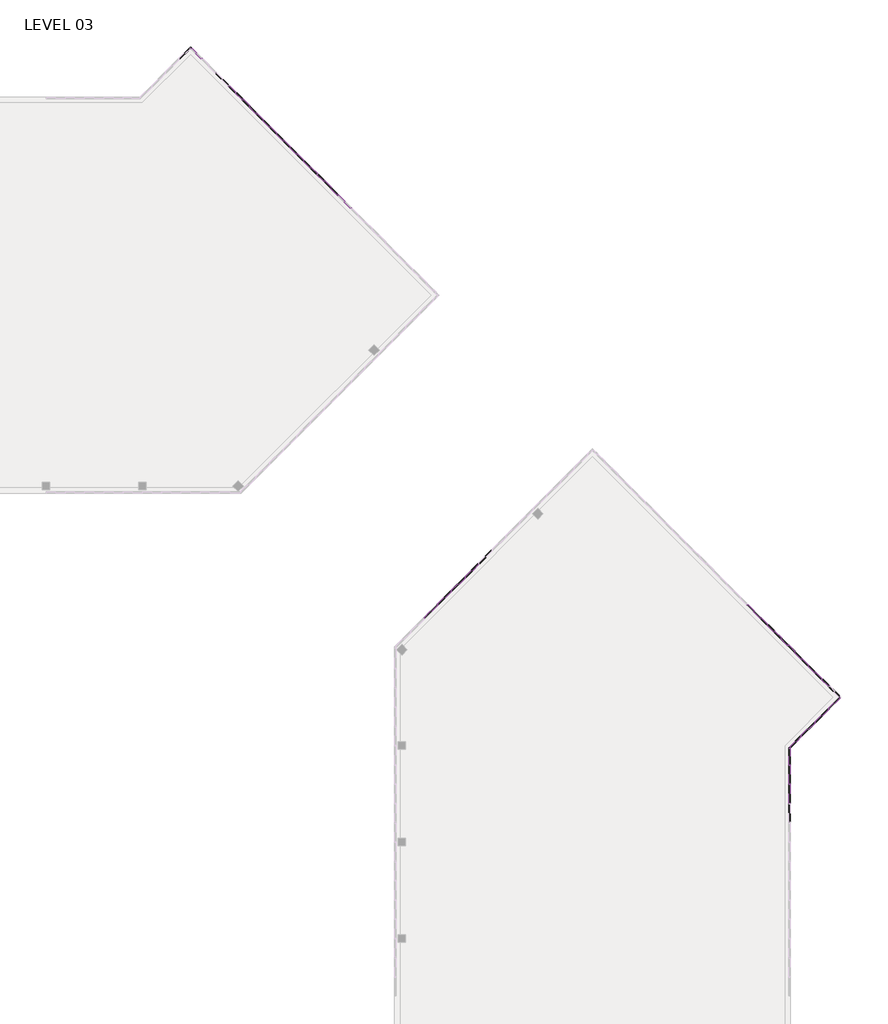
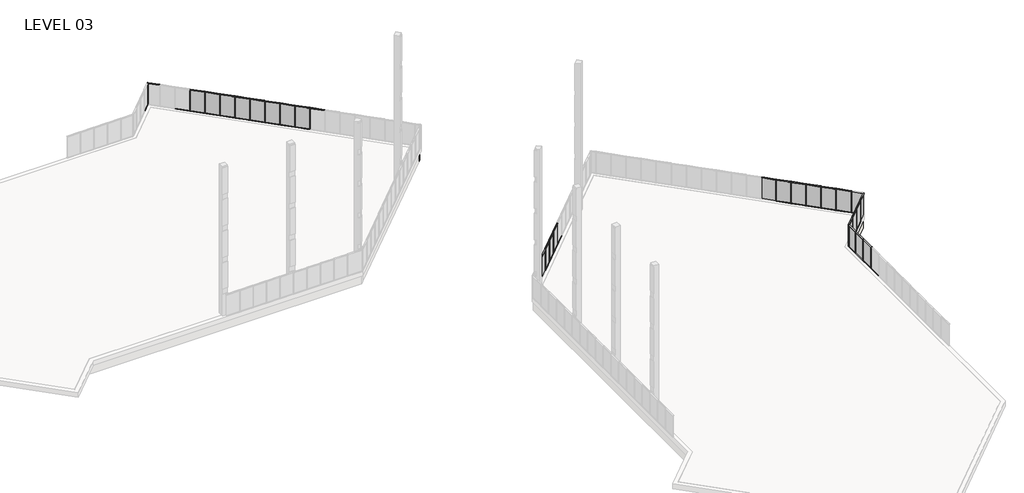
# One storey, part 16 of 18: 82 members, 26 plates, 2 walls.
"""IFC4 building model written with IfcOpenShell, lengths in millimetres."""

from ifc_helpers import new_model, si_unit, origin, place, context, project, spatial, faceted_brep, transform, mapped, element, save
from components import member_5247f267, member_e44af9ab, member_800970d4, member_c23f844a, member_ed9c17d6, member_53409b32, member_0b71a88d, member_45eb7f2e, member_43bac76b, plate_67294edd, plate_50b9cd61, plate_048e4634, plate_dca6a18a, plate_9c66726c, plate_e0fd5134, plate_15429445, plate_0d1907f3, plate_903242d9

model = new_model("IFC4")

# Units and contexts
model_context = context("Model", 3, world=origin())
ifc_project = project(units=[si_unit("LENGTHUNIT", "METRE", prefix="MILLI")], contexts=[model_context])

# Site, building, storey
site = spatial("IfcSite", under=ifc_project)
building = spatial("IfcBuilding", under=site)
storey = spatial("IfcBuildingStorey", under=building, Name="LEVEL 03", Elevation=8280.4)

# Members
placement = place(None, origin())
member_shape = member_5247f267(model_context)
element("IfcMember", 1, ObjectType="Rectangular Mullion : 2\" x 4.5\" rectangular", at=placement, inside=storey, context=model_context, shape_type="MappedRepresentation", body=[
    mapped(member_shape, transform((56684.0325556, 112485.575885, 8280.4), x_axis=(0.0, 0.0, -1.0), y_axis=(0.7071067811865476, 0.7071067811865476, 0.0), z_axis=(0.7071067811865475, -0.7071067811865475, 0.0))),
])
element("IfcMember", 2, ObjectType="Rectangular Mullion : 2\" x 4.5\" rectangular", at=placement, inside=storey, context=model_context, shape_type="MappedRepresentation", body=[
    mapped(member_shape, transform((50242.2689164, 118927.3395242, 8280.4), x_axis=(0.0, 0.0, -1.0), y_axis=(0.7071067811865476, 0.7071067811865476, 0.0), z_axis=(0.7071067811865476, -0.7071067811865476, 0.0))),
])
element("IfcMember", 3, ObjectType="Rectangular Mullion : 2\" x 4.5\" rectangular", at=placement, inside=storey, context=model_context, shape_type="MappedRepresentation", body=[
    mapped(member_shape, transform((49164.6381819, 120004.9702587, 8280.4), x_axis=(0.0, 0.0, -1.0), y_axis=(0.7071067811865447, 0.7071067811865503, 0.0), z_axis=(0.7071067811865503, -0.7071067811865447, 0.0))),
])
element("IfcMember", 4, ObjectType="Rectangular Mullion : 2\" x 4.5\" rectangular", at=placement, inside=storey, context=model_context, shape_type="MappedRepresentation", body=[
    mapped(member_shape, transform((48087.0074473, 121082.6009932, 8280.4), x_axis=(0.0, 0.0, -1.0), y_axis=(0.7071067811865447, 0.7071067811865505, 0.0), z_axis=(0.7071067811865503, -0.7071067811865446, 0.0))),
])
element("IfcMember", 5, ObjectType="Rectangular Mullion : 2\" x 4.5\" rectangular", at=placement, inside=storey, context=model_context, shape_type="MappedRepresentation", body=[
    mapped(member_shape, transform((56719.9535801, 112449.6548605, 10871.2), x_axis=(0.0, 0.0, 1.0), y_axis=(0.7071067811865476, 0.7071067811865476, 0.0), z_axis=(-0.7071067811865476, 0.7071067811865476, 0.0))),
])
element("IfcMember", 6, ObjectType="Rectangular Mullion : 2\" x 4.5\" rectangular", at=placement, inside=storey, context=model_context, shape_type="MappedRepresentation", body=[
    mapped(member_shape, transform((55642.3585801, 113527.2498605, 10871.2), x_axis=(0.0, 0.0, 1.0), y_axis=(0.7071067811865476, 0.7071067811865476, 0.0), z_axis=(-0.7071067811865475, 0.7071067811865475, 0.0))),
])
element("IfcMember", 7, ObjectType="Rectangular Mullion : 2\" x 4.5\" rectangular", at=placement, inside=storey, context=model_context, shape_type="MappedRepresentation", body=[
    mapped(member_shape, transform((49200.5592064, 119969.0492342, 10871.2), x_axis=(0.0, 0.0, 1.0), y_axis=(0.7071067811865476, 0.7071067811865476, 0.0), z_axis=(-0.7071067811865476, 0.7071067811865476, 0.0))),
])
element("IfcMember", 8, ObjectType="Rectangular Mullion : 2\" x 4.5\" rectangular", at=placement, inside=storey, context=model_context, shape_type="MappedRepresentation", body=[
    mapped(member_shape, transform((48122.9284718, 121046.6799687, 10871.2), x_axis=(0.0, 0.0, 1.0), y_axis=(0.7071067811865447, 0.7071067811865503, 0.0), z_axis=(-0.7071067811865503, 0.7071067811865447, 0.0))),
])
member_2_shape = member_e44af9ab(model_context)
element("IfcMember", 9, ObjectType="Rectangular Mullion : 2\" x 4.5\" rectangular", at=placement, inside=storey, context=model_context, shape_type="MappedRepresentation", body=[
    mapped(member_2_shape, transform((56701.9930678, 112467.6153727, 8280.4), x_axis=(-0.7071067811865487, 0.7071067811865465, 0.0), y_axis=(0.7071067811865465, 0.7071067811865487, 0.0), z_axis=(0.0, 0.0, -1.0))),
])
element("IfcMember", 10, ObjectType="Rectangular Mullion : 2\" x 4.5\" rectangular", at=placement, inside=storey, context=model_context, shape_type="MappedRepresentation", body=[
    mapped(member_2_shape, transform((55624.3980678, 113545.2103727, 8280.4), x_axis=(-0.7071067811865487, 0.7071067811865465, 0.0), y_axis=(0.7071067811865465, 0.7071067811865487, 0.0), z_axis=(0.0, 0.0, -1.0))),
])
element("IfcMember", 11, ObjectType="Rectangular Mullion : 2\" x 4.5\" rectangular", at=placement, inside=storey, context=model_context, shape_type="MappedRepresentation", body=[
    mapped(member_2_shape, transform((53475.159658, 115694.4487825, 8280.4), x_axis=(-0.7071067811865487, 0.7071067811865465, 0.0), y_axis=(0.7071067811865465, 0.7071067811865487, 0.0), z_axis=(0.0, 0.0, -1.0))),
])
element("IfcMember", 12, ObjectType="Rectangular Mullion : 2\" x 4.5\" rectangular", at=placement, inside=storey, context=model_context, shape_type="MappedRepresentation", body=[
    mapped(member_2_shape, transform((52403.5162482, 116766.0921923, 8280.4), x_axis=(-0.7071067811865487, 0.7071067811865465, 0.0), y_axis=(0.7071067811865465, 0.7071067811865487, 0.0), z_axis=(0.0, 0.0, -1.0))),
])
element("IfcMember", 13, ObjectType="Rectangular Mullion : 2\" x 4.5\" rectangular", at=placement, inside=storey, context=model_context, shape_type="MappedRepresentation", body=[
    mapped(member_2_shape, transform((51331.8728384, 117837.7356021, 8280.4), x_axis=(-0.7071067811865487, 0.7071067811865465, 0.0), y_axis=(0.7071067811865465, 0.7071067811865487, 0.0), z_axis=(0.0, 0.0, -1.0))),
])
element("IfcMember", 14, ObjectType="Rectangular Mullion : 2\" x 4.5\" rectangular", at=placement, inside=storey, context=model_context, shape_type="MappedRepresentation", body=[
    mapped(member_2_shape, transform((50260.2294286, 118909.3790119, 8280.4), x_axis=(-0.7071067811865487, 0.7071067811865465, 0.0), y_axis=(0.7071067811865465, 0.7071067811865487, 0.0), z_axis=(0.0, 0.0, -1.0))),
])
element("IfcMember", 15, ObjectType="Rectangular Mullion : 2\" x 4.5\" rectangular", at=placement, inside=storey, context=model_context, shape_type="MappedRepresentation", body=[
    mapped(member_2_shape, transform((54549.7788629, 114619.8295776, 8280.4), x_axis=(-0.7071067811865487, 0.7071067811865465, 0.0), y_axis=(0.7071067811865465, 0.7071067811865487, 0.0), z_axis=(0.0, 0.0, -1.0))),
])
element("IfcMember", 16, ObjectType="Rectangular Mullion : 2\" x 4.5\" rectangular", at=placement, inside=storey, context=model_context, shape_type="MappedRepresentation", body=[
    mapped(member_2_shape, transform((49182.5986941, 119987.0097464, 8280.4), x_axis=(-0.7071067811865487, 0.7071067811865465, 0.0), y_axis=(0.7071067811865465, 0.7071067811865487, 0.0), z_axis=(0.0, 0.0, -1.0))),
])
element("IfcMember", 17, ObjectType="Rectangular Mullion : 2\" x 4.5\" rectangular", at=placement, inside=storey, context=model_context, shape_type="MappedRepresentation", body=[
    mapped(member_2_shape, transform((48104.9679596, 121064.640481, 8280.4), x_axis=(-0.7071067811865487, 0.7071067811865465, 0.0), y_axis=(0.7071067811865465, 0.7071067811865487, 0.0), z_axis=(0.0, 0.0, -1.0))),
])
member_3_shape = member_800970d4(model_context)
element("IfcMember", 18, ObjectType="Rectangular Mullion : 2\" x 4.5\" rectangular", at=placement, inside=storey, context=model_context, shape_type="MappedRepresentation", body=[
    mapped(member_3_shape, transform((45065.95, 124103.6584406, 8280.4), x_axis=(-0.7071067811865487, 0.7071067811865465, 0.0), y_axis=(0.7071067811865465, 0.7071067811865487, 0.0), z_axis=(0.0, 0.0, -1.0))),
])
element("IfcMember", 19, ObjectType="Rectangular Mullion : 2\" x 4.5\" rectangular", at=placement, inside=storey, context=model_context, shape_type="MappedRepresentation", body=[
    mapped(member_3_shape, transform((45065.95, 124103.6584406, 10871.2), x_axis=(0.7071067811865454, 0.7071067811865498, 0.0), y_axis=(-0.7071067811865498, 0.7071067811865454, 0.0), z_axis=(0.0, 0.0, 1.0))),
])
member_4_shape = member_c23f844a(model_context)
element("IfcMember", 20, ObjectType="Rectangular Mullion : 2\" x 4.5\" rectangular", at=placement, inside=storey, context=model_context, shape_type="MappedRepresentation", body=[
    mapped(member_4_shape, transform((52421.4767605, 116748.1316801, 10871.2), x_axis=(0.0, 0.0, 1.0), y_axis=(0.7071067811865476, 0.7071067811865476, 0.0), z_axis=(-0.7071067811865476, 0.7071067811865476, 0.0))),
])
element("IfcMember", 21, ObjectType="Rectangular Mullion : 2\" x 4.5\" rectangular", at=placement, inside=storey, context=model_context, shape_type="MappedRepresentation", body=[
    mapped(member_4_shape, transform((51349.8333507, 117819.7750899, 10871.2), x_axis=(0.0, 0.0, 1.0), y_axis=(0.7071067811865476, 0.7071067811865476, 0.0), z_axis=(-0.7071067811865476, 0.7071067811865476, 0.0))),
])
element("IfcMember", 22, ObjectType="Rectangular Mullion : 2\" x 4.5\" rectangular", at=placement, inside=storey, context=model_context, shape_type="MappedRepresentation", body=[
    mapped(member_4_shape, transform((50278.1899409, 118891.4184997, 10871.2), x_axis=(0.0, 0.0, 1.0), y_axis=(0.7071067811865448, 0.7071067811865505, 0.0), z_axis=(-0.7071067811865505, 0.7071067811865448, 0.0))),
])
element("IfcMember", 23, ObjectType="Rectangular Mullion : 2\" x 4.5\" rectangular", at=placement, inside=storey, context=model_context, shape_type="MappedRepresentation", body=[
    mapped(member_4_shape, transform((53457.1991458, 115712.4092948, 8280.4), x_axis=(0.0, 0.0, -1.0), y_axis=(0.7071067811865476, 0.7071067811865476, 0.0), z_axis=(0.7071067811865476, -0.7071067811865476, 0.0))),
])
element("IfcMember", 24, ObjectType="Rectangular Mullion : 2\" x 4.5\" rectangular", at=placement, inside=storey, context=model_context, shape_type="MappedRepresentation", body=[
    mapped(member_4_shape, transform((52385.555736, 116784.0527046, 8280.4), x_axis=(0.0, 0.0, -1.0), y_axis=(0.7071067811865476, 0.7071067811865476, 0.0), z_axis=(0.7071067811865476, -0.7071067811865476, 0.0))),
])
element("IfcMember", 25, ObjectType="Rectangular Mullion : 2\" x 4.5\" rectangular", at=placement, inside=storey, context=model_context, shape_type="MappedRepresentation", body=[
    mapped(member_4_shape, transform((51313.9123262, 117855.6961144, 8280.4), x_axis=(0.0, 0.0, -1.0), y_axis=(0.7071067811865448, 0.7071067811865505, 0.0), z_axis=(0.7071067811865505, -0.7071067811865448, 0.0))),
])
member_5_shape = member_ed9c17d6(model_context)
element("IfcMember", 26, ObjectType="Rectangular Mullion : 2\" x 4.5\" rectangular", at=placement, inside=storey, context=model_context, shape_type="MappedRepresentation", body=[
    mapped(member_5_shape, transform((53493.1201703, 115676.4882703, 10871.2), x_axis=(0.0, 0.0, 1.0), y_axis=(0.7071067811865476, 0.7071067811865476, 0.0), z_axis=(-0.7071067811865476, 0.7071067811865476, 0.0))),
])
element("IfcMember", 27, ObjectType="Rectangular Mullion : 2\" x 4.5\" rectangular", at=placement, inside=storey, context=model_context, shape_type="MappedRepresentation", body=[
    mapped(member_5_shape, transform((54567.7393752, 114601.8690654, 10871.2), x_axis=(0.0, 0.0, 1.0), y_axis=(0.7071067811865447, 0.7071067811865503, 0.0), z_axis=(-0.7071067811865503, 0.7071067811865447, 0.0))),
])
element("IfcMember", 28, ObjectType="Rectangular Mullion : 2\" x 4.5\" rectangular", at=placement, inside=storey, context=model_context, shape_type="MappedRepresentation", body=[
    mapped(member_5_shape, transform((55606.4375556, 113563.170885, 8280.4), x_axis=(0.0, 0.0, -1.0), y_axis=(0.7071067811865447, 0.7071067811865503, 0.0), z_axis=(0.7071067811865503, -0.7071067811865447, 0.0))),
])
element("IfcMember", 29, ObjectType="Rectangular Mullion : 2\" x 4.5\" rectangular", at=placement, inside=storey, context=model_context, shape_type="MappedRepresentation", body=[
    mapped(member_5_shape, transform((54531.8183507, 114637.7900899, 8280.4), x_axis=(0.0, 0.0, -1.0), y_axis=(0.7071067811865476, 0.7071067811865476, 0.0), z_axis=(0.7071067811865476, -0.7071067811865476, 0.0))),
])
member_6_shape = member_53409b32(model_context)
element("IfcMember", 30, ObjectType="Rectangular Mullion : 2\" x 4.5\" rectangular", at=placement, inside=storey, context=model_context, shape_type="MappedRepresentation", body=[
    mapped(member_6_shape, transform((45101.8710245, 124067.7374161, 10871.2), x_axis=(0.0, 0.0, 1.0), y_axis=(0.7071067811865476, 0.7071067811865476, 0.0), z_axis=(-0.7071067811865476, 0.7071067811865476, 0.0))),
])
member_7_shape = member_0b71a88d(model_context)
element("IfcMember", 31, ObjectType="Rectangular Mullion : 2\" x 4.5\" rectangular", at=placement, inside=storey, context=model_context, shape_type="MappedRepresentation", body=[
    mapped(member_7_shape, transform((45030.0289755, 124067.7374161, 8280.4), x_axis=(0.0, 0.0, -1.0), y_axis=(-0.7071067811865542, 0.7071067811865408, 0.0), z_axis=(0.7071067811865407, 0.7071067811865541, 0.0))),
])
element("IfcMember", 32, ObjectType="Rectangular Mullion : 2\" x 4.5\" rectangular", at=placement, inside=storey, context=model_context, shape_type="MappedRepresentation", body=[
    mapped(member_shape, transform((64595.6050033, 80065.494011, 10871.2), x_axis=(0.0, 0.0, 1.0), y_axis=(0.7071067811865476, -0.7071067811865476, 0.0), z_axis=(0.7071067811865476, 0.7071067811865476, 0.0))),
])
element("IfcMember", 33, ObjectType="Rectangular Mullion : 2\" x 4.5\" rectangular", at=placement, inside=storey, context=model_context, shape_type="MappedRepresentation", body=[
    mapped(member_shape, transform((65673.2357378, 81143.1247456, 10871.2), x_axis=(0.0, 0.0, 1.0), y_axis=(0.7071067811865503, -0.7071067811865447, 0.0), z_axis=(0.7071067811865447, 0.7071067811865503, 0.0))),
])
element("IfcMember", 34, ObjectType="Rectangular Mullion : 2\" x 4.5\" rectangular", at=placement, inside=storey, context=model_context, shape_type="MappedRepresentation", body=[
    mapped(member_shape, transform((67828.4824051, 83298.3714129, 10871.2), x_axis=(0.0, 0.0, 1.0), y_axis=(0.7071067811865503, -0.7071067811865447, 0.0), z_axis=(0.7071067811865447, 0.7071067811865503, 0.0))),
])
element("IfcMember", 35, ObjectType="Rectangular Mullion : 2\" x 4.5\" rectangular", at=placement, inside=storey, context=model_context, shape_type="MappedRepresentation", body=[
    mapped(member_shape, transform((94441.1847655, 70787.511502, 10871.2), x_axis=(0.0, 0.0, 1.0), y_axis=(-0.7071067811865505, 0.7071067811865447, 0.0), z_axis=(-0.7071067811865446, -0.7071067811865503, 0.0))),
])
element("IfcMember", 36, ObjectType="Rectangular Mullion : 2\" x 4.5\" rectangular", at=placement, inside=storey, context=model_context, shape_type="MappedRepresentation", body=[
    mapped(member_shape, transform((93363.554031, 69709.8807675, 10871.2), x_axis=(0.0, 0.0, 1.0), y_axis=(-0.7071067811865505, 0.7071067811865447, 0.0), z_axis=(-0.7071067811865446, -0.7071067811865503, 0.0))),
])
element("IfcMember", 37, ObjectType="Rectangular Mullion : 2\" x 4.5\" rectangular", at=placement, inside=storey, context=model_context, shape_type="MappedRepresentation", body=[
    mapped(member_shape, transform((92435.9347164, 65925.3675885, 10871.2), x_axis=(0.0, 0.0, 1.0), y_axis=(-1.0, 0.0, 0.0), z_axis=(0.0, -1.0, 0.0))),
])
element("IfcMember", 38, ObjectType="Rectangular Mullion : 2\" x 4.5\" rectangular", at=placement, inside=storey, context=model_context, shape_type="MappedRepresentation", body=[
    mapped(member_shape, transform((92435.9347164, 64401.3675885, 10871.2), x_axis=(0.0, 0.0, 1.0), y_axis=(-1.0, 0.0, 0.0), z_axis=(0.0, -1.0, 0.0))),
])
element("IfcMember", 39, ObjectType="Rectangular Mullion : 2\" x 4.5\" rectangular", at=placement, inside=storey, context=model_context, shape_type="MappedRepresentation", body=[
    mapped(member_shape, transform((66750.8590715, 82220.7480792, 10871.2), x_axis=(0.0, 0.0, 1.0), y_axis=(0.7071067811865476, -0.7071067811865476, 0.0), z_axis=(0.7071067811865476, 0.7071067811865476, 0.0))),
])
element("IfcMember", 40, ObjectType="Rectangular Mullion : 2\" x 4.5\" rectangular", at=placement, inside=storey, context=model_context, shape_type="MappedRepresentation", body=[
    mapped(member_shape, transform((92277.0316457, 76892.5767949, 10871.2), x_axis=(0.0, 0.0, 1.0), y_axis=(-0.7071067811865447, -0.7071067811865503, 0.0), z_axis=(0.7071067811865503, -0.7071067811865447, 0.0))),
])
element("IfcMember", 41, ObjectType="Rectangular Mullion : 2\" x 4.5\" rectangular", at=placement, inside=storey, context=model_context, shape_type="MappedRepresentation", body=[
    mapped(member_shape, transform((93354.6623802, 75814.9460603, 10871.2), x_axis=(0.0, 0.0, 1.0), y_axis=(-0.7071067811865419, -0.7071067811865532, 0.0), z_axis=(0.7071067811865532, -0.7071067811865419, 0.0))),
])
element("IfcMember", 42, ObjectType="Rectangular Mullion : 2\" x 4.5\" rectangular", at=placement, inside=storey, context=model_context, shape_type="MappedRepresentation", body=[
    mapped(member_shape, transform((94432.2931147, 74737.3153258, 10871.2), x_axis=(0.0, 0.0, 1.0), y_axis=(-0.7071067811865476, -0.7071067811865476, 0.0), z_axis=(0.7071067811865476, -0.7071067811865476, 0.0))),
])
element("IfcMember", 43, ObjectType="Rectangular Mullion : 2\" x 4.5\" rectangular", at=placement, inside=storey, context=model_context, shape_type="MappedRepresentation", body=[
    mapped(member_shape, transform((95509.9238493, 73659.6845913, 10871.2), x_axis=(0.0, 0.0, 1.0), y_axis=(-0.7071067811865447, -0.7071067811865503, 0.0), z_axis=(0.7071067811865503, -0.7071067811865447, 0.0))),
])
element("IfcMember", 44, ObjectType="Rectangular Mullion : 2\" x 4.5\" rectangular", at=placement, inside=storey, context=model_context, shape_type="MappedRepresentation", body=[
    mapped(member_shape, transform((64631.5260278, 80101.4150355, 8280.4), x_axis=(0.0, 0.0, -1.0), y_axis=(0.7071067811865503, -0.7071067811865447, 0.0), z_axis=(-0.7071067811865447, -0.7071067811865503, 0.0))),
])
element("IfcMember", 45, ObjectType="Rectangular Mullion : 2\" x 4.5\" rectangular", at=placement, inside=storey, context=model_context, shape_type="MappedRepresentation", body=[
    mapped(member_shape, transform((65709.1567623, 81179.04577, 8280.4), x_axis=(0.0, 0.0, -1.0), y_axis=(0.7071067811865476, -0.7071067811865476, 0.0), z_axis=(-0.7071067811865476, -0.7071067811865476, 0.0))),
])
element("IfcMember", 46, ObjectType="Rectangular Mullion : 2\" x 4.5\" rectangular", at=placement, inside=storey, context=model_context, shape_type="MappedRepresentation", body=[
    mapped(member_shape, transform((67864.4034296, 83334.2924374, 8280.4), x_axis=(0.0, 0.0, -1.0), y_axis=(0.7071067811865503, -0.7071067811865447, 0.0), z_axis=(-0.7071067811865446, -0.7071067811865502, 0.0))),
])
element("IfcMember", 47, ObjectType="Rectangular Mullion : 2\" x 4.5\" rectangular", at=placement, inside=storey, context=model_context, shape_type="MappedRepresentation", body=[
    mapped(member_shape, transform((91235.3219356, 77934.2865049, 8280.4), x_axis=(0.0, 0.0, -1.0), y_axis=(-0.7071067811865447, -0.7071067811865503, 0.0), z_axis=(-0.7071067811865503, 0.7071067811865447, 0.0))),
])
element("IfcMember", 48, ObjectType="Rectangular Mullion : 2\" x 4.5\" rectangular", at=placement, inside=storey, context=model_context, shape_type="MappedRepresentation", body=[
    mapped(member_shape, transform((94405.263741, 70751.5904775, 8280.4), x_axis=(0.0, 0.0, -1.0), y_axis=(-0.7071067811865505, 0.7071067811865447, 0.0), z_axis=(0.7071067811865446, 0.7071067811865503, 0.0))),
])
element("IfcMember", 49, ObjectType="Rectangular Mullion : 2\" x 4.5\" rectangular", at=placement, inside=storey, context=model_context, shape_type="MappedRepresentation", body=[
    mapped(member_shape, transform((92435.9347164, 67398.5675885, 8280.4), x_axis=(0.0, 0.0, -1.0), y_axis=(-1.0, 0.0, 0.0), z_axis=(0.0, 1.0, 0.0))),
])
element("IfcMember", 50, ObjectType="Rectangular Mullion : 2\" x 4.5\" rectangular", at=placement, inside=storey, context=model_context, shape_type="MappedRepresentation", body=[
    mapped(member_shape, transform((92435.9347164, 65874.5675885, 8280.4), x_axis=(0.0, 0.0, -1.0), y_axis=(-1.0, 0.0, 0.0), z_axis=(0.0, 1.0, 0.0))),
])
element("IfcMember", 51, ObjectType="Rectangular Mullion : 2\" x 4.5\" rectangular", at=placement, inside=storey, context=model_context, shape_type="MappedRepresentation", body=[
    mapped(member_shape, transform((92435.9347164, 64350.5675885, 8280.4), x_axis=(0.0, 0.0, -1.0), y_axis=(-1.0, 0.0, 0.0), z_axis=(0.0, 1.0, 0.0))),
])
element("IfcMember", 52, ObjectType="Rectangular Mullion : 2\" x 4.5\" rectangular", at=placement, inside=storey, context=model_context, shape_type="MappedRepresentation", body=[
    mapped(member_shape, transform((66786.780096, 82256.6691037, 8280.4), x_axis=(0.0, 0.0, -1.0), y_axis=(0.7071067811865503, -0.7071067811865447, 0.0), z_axis=(-0.7071067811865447, -0.7071067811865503, 0.0))),
])
element("IfcMember", 53, ObjectType="Rectangular Mullion : 2\" x 4.5\" rectangular", at=placement, inside=storey, context=model_context, shape_type="MappedRepresentation", body=[
    mapped(member_shape, transform((92312.9526702, 76856.6557704, 8280.4), x_axis=(0.0, 0.0, -1.0), y_axis=(-0.7071067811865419, -0.7071067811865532, 0.0), z_axis=(-0.7071067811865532, 0.7071067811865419, 0.0))),
])
element("IfcMember", 54, ObjectType="Rectangular Mullion : 2\" x 4.5\" rectangular", at=placement, inside=storey, context=model_context, shape_type="MappedRepresentation", body=[
    mapped(member_shape, transform((93390.5834047, 75779.0250359, 8280.4), x_axis=(0.0, 0.0, -1.0), y_axis=(-0.7071067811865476, -0.7071067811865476, 0.0), z_axis=(-0.7071067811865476, 0.7071067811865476, 0.0))),
])
element("IfcMember", 55, ObjectType="Rectangular Mullion : 2\" x 4.5\" rectangular", at=placement, inside=storey, context=model_context, shape_type="MappedRepresentation", body=[
    mapped(member_shape, transform((94468.2141392, 74701.3943013, 8280.4), x_axis=(0.0, 0.0, -1.0), y_axis=(-0.7071067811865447, -0.7071067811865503, 0.0), z_axis=(-0.7071067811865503, 0.7071067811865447, 0.0))),
])
element("IfcMember", 56, ObjectType="Rectangular Mullion : 2\" x 4.5\" rectangular", at=placement, inside=storey, context=model_context, shape_type="MappedRepresentation", body=[
    mapped(member_shape, transform((95482.8944756, 71829.221212, 8280.4), x_axis=(0.0, 0.0, -1.0), y_axis=(-0.7071067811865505, 0.7071067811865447, 0.0), z_axis=(0.7071067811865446, 0.7071067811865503, 0.0))),
])
element("IfcMember", 57, ObjectType="Rectangular Mullion : 2\" x 4.5\" rectangular", at=placement, inside=storey, context=model_context, shape_type="MappedRepresentation", body=[
    mapped(member_2_shape, transform((64613.5655155, 80083.4545233, 8280.4), x_axis=(0.7071067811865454, 0.7071067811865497, 0.0), y_axis=(0.7071067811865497, -0.7071067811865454, 0.0), z_axis=(0.0, 0.0, -1.0))),
])
element("IfcMember", 58, ObjectType="Rectangular Mullion : 2\" x 4.5\" rectangular", at=placement, inside=storey, context=model_context, shape_type="MappedRepresentation", body=[
    mapped(member_2_shape, transform((65691.1962501, 81161.0852578, 8280.4), x_axis=(0.7071067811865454, 0.7071067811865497, 0.0), y_axis=(0.7071067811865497, -0.7071067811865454, 0.0), z_axis=(0.0, 0.0, -1.0))),
])
element("IfcMember", 59, ObjectType="Rectangular Mullion : 2\" x 4.5\" rectangular", at=placement, inside=storey, context=model_context, shape_type="MappedRepresentation", body=[
    mapped(member_2_shape, transform((90145.7180136, 79023.890427, 8280.4), x_axis=(0.7071067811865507, -0.7071067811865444, 0.0), y_axis=(-0.7071067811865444, -0.7071067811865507, 0.0), z_axis=(0.0, 0.0, -1.0))),
])
element("IfcMember", 60, ObjectType="Rectangular Mullion : 2\" x 4.5\" rectangular", at=placement, inside=storey, context=model_context, shape_type="MappedRepresentation", body=[
    mapped(member_2_shape, transform((91217.3614234, 77952.2470172, 8280.4), x_axis=(0.7071067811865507, -0.7071067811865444, 0.0), y_axis=(-0.7071067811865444, -0.7071067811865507, 0.0), z_axis=(0.0, 0.0, -1.0))),
])
element("IfcMember", 61, ObjectType="Rectangular Mullion : 2\" x 4.5\" rectangular", at=placement, inside=storey, context=model_context, shape_type="MappedRepresentation", body=[
    mapped(member_2_shape, transform((94423.2242533, 70769.5509898, 8280.4), x_axis=(-0.7071067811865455, -0.7071067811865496, 0.0), y_axis=(-0.7071067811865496, 0.7071067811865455, 0.0), z_axis=(0.0, 0.0, -1.0))),
])
element("IfcMember", 62, ObjectType="Rectangular Mullion : 2\" x 4.5\" rectangular", at=placement, inside=storey, context=model_context, shape_type="MappedRepresentation", body=[
    mapped(member_2_shape, transform((93345.5935187, 69691.9202552, 8280.4), x_axis=(-0.7071067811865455, -0.7071067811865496, 0.0), y_axis=(-0.7071067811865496, 0.7071067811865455, 0.0), z_axis=(0.0, 0.0, -1.0))),
])
element("IfcMember", 63, ObjectType="Rectangular Mullion : 2\" x 4.5\" rectangular", at=placement, inside=storey, context=model_context, shape_type="MappedRepresentation", body=[
    mapped(member_2_shape, transform((92435.9347164, 67423.9675885, 8280.4), x_axis=(0.0, -1.0, 0.0), y_axis=(-1.0, 0.0, 0.0), z_axis=(0.0, 0.0, -1.0))),
])
element("IfcMember", 64, ObjectType="Rectangular Mullion : 2\" x 4.5\" rectangular", at=placement, inside=storey, context=model_context, shape_type="MappedRepresentation", body=[
    mapped(member_2_shape, transform((92435.9347164, 65899.9675885, 8280.4), x_axis=(0.0, -1.0, 0.0), y_axis=(-1.0, 0.0, 0.0), z_axis=(0.0, 0.0, -1.0))),
])
element("IfcMember", 65, ObjectType="Rectangular Mullion : 2\" x 4.5\" rectangular", at=placement, inside=storey, context=model_context, shape_type="MappedRepresentation", body=[
    mapped(member_2_shape, transform((92435.9347164, 64375.9675885, 8280.4), x_axis=(0.0, -1.0, 0.0), y_axis=(-1.0, 0.0, 0.0), z_axis=(0.0, 0.0, -1.0))),
])
element("IfcMember", 66, ObjectType="Rectangular Mullion : 2\" x 4.5\" rectangular", at=placement, inside=storey, context=model_context, shape_type="MappedRepresentation", body=[
    mapped(member_2_shape, transform((66768.8195837, 82238.7085915, 8280.4), x_axis=(0.7071067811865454, 0.7071067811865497, 0.0), y_axis=(0.7071067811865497, -0.7071067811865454, 0.0), z_axis=(0.0, 0.0, -1.0))),
])
element("IfcMember", 67, ObjectType="Rectangular Mullion : 2\" x 4.5\" rectangular", at=placement, inside=storey, context=model_context, shape_type="MappedRepresentation", body=[
    mapped(member_2_shape, transform((92294.9921579, 76874.6162826, 8280.4), x_axis=(0.7071067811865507, -0.7071067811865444, 0.0), y_axis=(-0.7071067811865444, -0.7071067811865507, 0.0), z_axis=(0.0, 0.0, -1.0))),
])
element("IfcMember", 68, ObjectType="Rectangular Mullion : 2\" x 4.5\" rectangular", at=placement, inside=storey, context=model_context, shape_type="MappedRepresentation", body=[
    mapped(member_2_shape, transform((93372.6228924, 75796.9855481, 8280.4), x_axis=(0.7071067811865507, -0.7071067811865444, 0.0), y_axis=(-0.7071067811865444, -0.7071067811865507, 0.0), z_axis=(0.0, 0.0, -1.0))),
])
element("IfcMember", 69, ObjectType="Rectangular Mullion : 2\" x 4.5\" rectangular", at=placement, inside=storey, context=model_context, shape_type="MappedRepresentation", body=[
    mapped(member_2_shape, transform((94450.253627, 74719.3548136, 8280.4), x_axis=(0.7071067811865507, -0.7071067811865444, 0.0), y_axis=(-0.7071067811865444, -0.7071067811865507, 0.0), z_axis=(0.0, 0.0, -1.0))),
])
element("IfcMember", 70, ObjectType="Rectangular Mullion : 2\" x 4.5\" rectangular", at=placement, inside=storey, context=model_context, shape_type="MappedRepresentation", body=[
    mapped(member_2_shape, transform((95527.8843615, 73641.724079, 8280.4), x_axis=(0.7071067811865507, -0.7071067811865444, 0.0), y_axis=(-0.7071067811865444, -0.7071067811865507, 0.0), z_axis=(0.0, 0.0, -1.0))),
])
element("IfcMember", 71, ObjectType="Rectangular Mullion : 2\" x 4.5\" rectangular", at=placement, inside=storey, context=model_context, shape_type="MappedRepresentation", body=[
    mapped(member_2_shape, transform((95500.8549878, 71847.1817243, 8280.4), x_axis=(-0.7071067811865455, -0.7071067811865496, 0.0), y_axis=(-0.7071067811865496, 0.7071067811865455, 0.0), z_axis=(0.0, 0.0, -1.0))),
])
element("IfcMember", 72, ObjectType="Rectangular Mullion : 2\" x 4.5\" rectangular", at=placement, inside=storey, context=model_context, shape_type="MappedRepresentation", body=[
    mapped(member_3_shape, transform((92435.9347164, 68782.2614529, 8280.4), x_axis=(-0.7071067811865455, -0.7071067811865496, 0.0), y_axis=(-0.7071067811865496, 0.7071067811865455, 0.0), z_axis=(0.0, 0.0, -1.0))),
])
element("IfcMember", 73, ObjectType="Rectangular Mullion : 2\" x 4.5\" rectangular", at=placement, inside=storey, context=model_context, shape_type="MappedRepresentation", body=[
    mapped(member_3_shape, transform((92435.9347164, 68782.2614529, 10871.2), x_axis=(0.0, 1.0, 0.0), y_axis=(-1.0, 0.0, 0.0), z_axis=(0.0, 0.0, 1.0))),
])
element("IfcMember", 74, ObjectType="Rectangular Mullion : 2\" x 4.5\" rectangular", at=placement, inside=storey, context=model_context, shape_type="MappedRepresentation", body=[
    mapped(member_4_shape, transform((90127.7575014, 79041.8509392, 10871.2), x_axis=(0.0, 0.0, 1.0), y_axis=(-0.7071067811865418, -0.7071067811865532, 0.0), z_axis=(0.7071067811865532, -0.7071067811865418, 0.0))),
])
element("IfcMember", 75, ObjectType="Rectangular Mullion : 2\" x 4.5\" rectangular", at=placement, inside=storey, context=model_context, shape_type="MappedRepresentation", body=[
    mapped(member_4_shape, transform((91199.4009111, 77970.2075294, 10871.2), x_axis=(0.0, 0.0, 1.0), y_axis=(-0.7071067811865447, -0.7071067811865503, 0.0), z_axis=(0.7071067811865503, -0.7071067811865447, 0.0))),
])
element("IfcMember", 76, ObjectType="Rectangular Mullion : 2\" x 4.5\" rectangular", at=placement, inside=storey, context=model_context, shape_type="MappedRepresentation", body=[
    mapped(member_4_shape, transform((90163.6785258, 79005.9299147, 8280.4), x_axis=(0.0, 0.0, -1.0), y_axis=(-0.7071067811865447, -0.7071067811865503, 0.0), z_axis=(-0.7071067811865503, 0.7071067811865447, 0.0))),
])
member_8_shape = member_45eb7f2e(model_context)
element("IfcMember", 77, ObjectType="Rectangular Mullion : 2\" x 4.5\" rectangular", at=placement, inside=storey, context=model_context, shape_type="MappedRepresentation", body=[
    mapped(member_8_shape, transform((92435.9347164, 67449.3675885, 10871.2), x_axis=(0.0, 0.0, 1.0), y_axis=(-1.0, 0.0, 0.0), z_axis=(0.0, -1.0, 0.0))),
])
element("IfcMember", 78, ObjectType="Rectangular Mullion : 2\" x 4.5\" rectangular", at=placement, inside=storey, context=model_context, shape_type="MappedRepresentation", body=[
    mapped(member_8_shape, transform((92435.9347164, 68731.4614529, 8280.4), x_axis=(0.0, 0.0, -1.0), y_axis=(-1.0, 0.0, 0.0), z_axis=(0.0, 1.0, 0.0))),
])
element("IfcMember", 79, ObjectType="Rectangular Mullion : 2\" x 4.5\" rectangular", at=placement, inside=storey, context=model_context, shape_type="MappedRepresentation", body=[
    mapped(member_6_shape, transform((95545.8448737, 73623.7635668, 8280.4), x_axis=(0.0, 0.0, -1.0), y_axis=(-0.7071067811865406, -0.7071067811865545, 0.0), z_axis=(-0.7071067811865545, 0.7071067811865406, 0.0))),
])
member_9_shape = member_43bac76b(model_context)
element("IfcMember", 80, ObjectType="Rectangular Mullion : 2\" x 4.5\" rectangular", at=placement, inside=storey, context=model_context, shape_type="MappedRepresentation", body=[
    mapped(member_9_shape, transform((92471.8557409, 68818.1824774, 10871.2), x_axis=(0.0, 0.0, 1.0), y_axis=(-0.7071067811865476, 0.7071067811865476, 0.0), z_axis=(-0.7071067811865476, -0.7071067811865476, 0.0))),
])
element("IfcMember", 81, ObjectType="Rectangular Mullion : 2\" x 4.5\" rectangular", at=placement, inside=storey, context=model_context, shape_type="MappedRepresentation", body=[
    mapped(member_9_shape, transform((93327.6330065, 69673.959743, 8280.4), x_axis=(0.0, 0.0, -1.0), y_axis=(-0.7071067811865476, 0.7071067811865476, 0.0), z_axis=(0.7071067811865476, 0.7071067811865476, 0.0))),
])
element("IfcMember", 82, ObjectType="Rectangular Mullion : 2\" x 4.5\" rectangular", at=placement, inside=storey, context=model_context, shape_type="MappedRepresentation", body=[
    mapped(member_7_shape, transform((95518.8155, 71865.1422365, 10871.2), x_axis=(0.0, 0.0, 1.0), y_axis=(-0.7071067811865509, 0.7071067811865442, 0.0), z_axis=(-0.7071067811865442, -0.7071067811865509, 0.0))),
])

# Plates
plate_shape = plate_67294edd(model_context)
element("IfcPlate", 83, ObjectType="System Panel : 1/4\" Glass", at=placement, inside=storey, context=model_context, shape_type="MappedRepresentation", body=[
    mapped(plate_shape, transform((49721.4140614, 119448.1943792, 8331.2), x_axis=(-0.7071067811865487, 0.7071067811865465, 0.0), y_axis=(-0.7071067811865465, -0.7071067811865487, 0.0), z_axis=(0.0, 0.0, 1.0))),
])
element("IfcPlate", 84, ObjectType="System Panel : 1/4\" Glass", at=placement, inside=storey, context=model_context, shape_type="MappedRepresentation", body=[
    mapped(plate_shape, transform((48643.7833268, 120525.8251137, 8331.2), x_axis=(-0.7071067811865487, 0.7071067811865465, 0.0), y_axis=(-0.7071067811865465, -0.7071067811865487, 0.0), z_axis=(0.0, 0.0, 1.0))),
])
plate_2_shape = plate_50b9cd61(model_context)
element("IfcPlate", 85, ObjectType="System Panel : 1/4\" Glass", at=placement, inside=storey, context=model_context, shape_type="MappedRepresentation", body=[
    mapped(plate_2_shape, transform((52939.3379531, 116230.2704874, 8331.2), x_axis=(-0.7071067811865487, 0.7071067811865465, 0.0), y_axis=(-0.7071067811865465, -0.7071067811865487, 0.0), z_axis=(0.0, 0.0, 1.0))),
])
element("IfcPlate", 86, ObjectType="System Panel : 1/4\" Glass", at=placement, inside=storey, context=model_context, shape_type="MappedRepresentation", body=[
    mapped(plate_2_shape, transform((51867.6945433, 117301.9138972, 8331.2), x_axis=(-0.7071067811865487, 0.7071067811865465, 0.0), y_axis=(-0.7071067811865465, -0.7071067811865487, 0.0), z_axis=(0.0, 0.0, 1.0))),
])
element("IfcPlate", 87, ObjectType="System Panel : 1/4\" Glass", at=placement, inside=storey, context=model_context, shape_type="MappedRepresentation", body=[
    mapped(plate_2_shape, transform((50796.0511335, 118373.557307, 8331.2), x_axis=(-0.7071067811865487, 0.7071067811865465, 0.0), y_axis=(-0.7071067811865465, -0.7071067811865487, 0.0), z_axis=(0.0, 0.0, 1.0))),
])
plate_3_shape = plate_048e4634(model_context)
element("IfcPlate", 88, ObjectType="System Panel : 1/4\" Glass", at=placement, inside=storey, context=model_context, shape_type="MappedRepresentation", body=[
    mapped(plate_3_shape, transform((56163.1955678, 113006.4128727, 8331.2), x_axis=(-0.7071067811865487, 0.7071067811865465, 0.0), y_axis=(-0.7071067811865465, -0.7071067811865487, 0.0), z_axis=(0.0, 0.0, 1.0))),
])
plate_4_shape = plate_dca6a18a(model_context)
element("IfcPlate", 89, ObjectType="System Panel : 1/4\" Glass", at=placement, inside=storey, context=model_context, shape_type="MappedRepresentation", body=[
    mapped(plate_4_shape, transform((55087.0884654, 114082.5199752, 8331.2), x_axis=(-0.7071067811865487, 0.7071067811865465, 0.0), y_axis=(-0.7071067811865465, -0.7071067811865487, 0.0), z_axis=(0.0, 0.0, 1.0))),
])
element("IfcPlate", 90, ObjectType="System Panel : 1/4\" Glass", at=placement, inside=storey, context=model_context, shape_type="MappedRepresentation", body=[
    mapped(plate_4_shape, transform((54012.4692605, 115157.1391801, 8331.2), x_axis=(-0.7071067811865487, 0.7071067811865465, 0.0), y_axis=(-0.7071067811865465, -0.7071067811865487, 0.0), z_axis=(0.0, 0.0, 1.0))),
])
element("IfcPlate", 91, ObjectType="System Panel : 1/4\" Glass", at=placement, inside=storey, context=model_context, shape_type="MappedRepresentation", body=[
    mapped(plate_shape, transform((64074.7501483, 79544.639156, 8331.2), x_axis=(0.7071067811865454, 0.7071067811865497, 0.0), y_axis=(-0.7071067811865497, 0.7071067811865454, 0.0), z_axis=(0.0, 0.0, 1.0))),
])
element("IfcPlate", 92, ObjectType="System Panel : 1/4\" Glass", at=placement, inside=storey, context=model_context, shape_type="MappedRepresentation", body=[
    mapped(plate_shape, transform((65152.3808828, 80622.2698905, 8331.2), x_axis=(0.7071067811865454, 0.7071067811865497, 0.0), y_axis=(-0.7071067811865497, 0.7071067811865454, 0.0), z_axis=(0.0, 0.0, 1.0))),
])
element("IfcPlate", 93, ObjectType="System Panel : 1/4\" Glass", at=placement, inside=storey, context=model_context, shape_type="MappedRepresentation", body=[
    mapped(plate_shape, transform((91756.1767907, 77413.4316499, 8331.2), x_axis=(0.7071067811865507, -0.7071067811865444, 0.0), y_axis=(0.7071067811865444, 0.7071067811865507, 0.0), z_axis=(0.0, 0.0, 1.0))),
])
element("IfcPlate", 94, ObjectType="System Panel : 1/4\" Glass", at=placement, inside=storey, context=model_context, shape_type="MappedRepresentation", body=[
    mapped(plate_shape, transform((93884.408886, 70230.7356225, 8331.2), x_axis=(-0.7071067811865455, -0.7071067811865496, 0.0), y_axis=(0.7071067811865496, -0.7071067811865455, 0.0), z_axis=(0.0, 0.0, 1.0))),
])
element("IfcPlate", 95, ObjectType="System Panel : 1/4\" Glass", at=placement, inside=storey, context=model_context, shape_type="MappedRepresentation", body=[
    mapped(plate_shape, transform((92435.9347164, 66661.9675885, 8331.2), x_axis=(0.0, -1.0, 0.0), y_axis=(1.0, 0.0, 0.0), z_axis=(0.0, 0.0, 1.0))),
])
element("IfcPlate", 96, ObjectType="System Panel : 1/4\" Glass", at=placement, inside=storey, context=model_context, shape_type="MappedRepresentation", body=[
    mapped(plate_shape, transform((92435.9347164, 65137.9675885, 8331.2), x_axis=(0.0, -1.0, 0.0), y_axis=(1.0, 0.0, 0.0), z_axis=(0.0, 0.0, 1.0))),
])
element("IfcPlate", 97, ObjectType="System Panel : 1/4\" Glass", at=placement, inside=storey, context=model_context, shape_type="MappedRepresentation", body=[
    mapped(plate_shape, transform((92833.8075252, 76335.8009154, 8331.2), x_axis=(0.7071067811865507, -0.7071067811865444, 0.0), y_axis=(0.7071067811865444, 0.7071067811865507, 0.0), z_axis=(0.0, 0.0, 1.0))),
])
element("IfcPlate", 98, ObjectType="System Panel : 1/4\" Glass", at=placement, inside=storey, context=model_context, shape_type="MappedRepresentation", body=[
    mapped(plate_shape, transform((93911.4382597, 75258.1701808, 8331.2), x_axis=(0.7071067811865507, -0.7071067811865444, 0.0), y_axis=(0.7071067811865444, 0.7071067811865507, 0.0), z_axis=(0.0, 0.0, 1.0))),
])
element("IfcPlate", 99, ObjectType="System Panel : 1/4\" Glass", at=placement, inside=storey, context=model_context, shape_type="MappedRepresentation", body=[
    mapped(plate_shape, transform((94989.0689942, 74180.5394463, 8331.2), x_axis=(0.7071067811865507, -0.7071067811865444, 0.0), y_axis=(0.7071067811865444, 0.7071067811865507, 0.0), z_axis=(0.0, 0.0, 1.0))),
])
element("IfcPlate", 100, ObjectType="System Panel : 1/4\" Glass", at=placement, inside=storey, context=model_context, shape_type="MappedRepresentation", body=[
    mapped(plate_shape, transform((94962.0396205, 71308.366357, 8331.2), x_axis=(-0.7071067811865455, -0.7071067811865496, 0.0), y_axis=(0.7071067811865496, -0.7071067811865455, 0.0), z_axis=(0.0, 0.0, 1.0))),
])
element("IfcPlate", 101, ObjectType="System Panel : 1/4\" Glass", at=placement, inside=storey, context=model_context, shape_type="MappedRepresentation", body=[
    mapped(plate_2_shape, transform((89609.8963087, 79559.7121319, 8331.2), x_axis=(0.7071067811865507, -0.7071067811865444, 0.0), y_axis=(0.7071067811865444, 0.7071067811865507, 0.0), z_axis=(0.0, 0.0, 1.0))),
])
element("IfcPlate", 102, ObjectType="System Panel : 1/4\" Glass", at=placement, inside=storey, context=model_context, shape_type="MappedRepresentation", body=[
    mapped(plate_2_shape, transform((90681.5397185, 78488.0687221, 8331.2), x_axis=(0.7071067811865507, -0.7071067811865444, 0.0), y_axis=(0.7071067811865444, 0.7071067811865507, 0.0), z_axis=(0.0, 0.0, 1.0))),
])
plate_5_shape = plate_9c66726c(model_context)
element("IfcPlate", 103, ObjectType="System Panel : 1/4\" Glass", at=placement, inside=storey, context=model_context, shape_type="MappedRepresentation", body=[
    mapped(plate_5_shape, transform((92435.9347164, 68090.4145207, 8331.2), x_axis=(0.0, -1.0, 0.0), y_axis=(1.0, 0.0, 0.0), z_axis=(0.0, 0.0, 1.0))),
])
plate_6_shape = plate_e0fd5134(model_context)
element("IfcPlate", 104, ObjectType="System Panel : 1/4\" Glass", at=placement, inside=storey, context=model_context, shape_type="MappedRepresentation", body=[
    mapped(plate_6_shape, transform((66230.0079169, 81699.8969246, 8331.2), x_axis=(0.7071067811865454, 0.7071067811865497, 0.0), y_axis=(-0.7071067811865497, 0.7071067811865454, 0.0), z_axis=(0.0, 0.0, 1.0))),
])
element("IfcPlate", 105, ObjectType="System Panel : 1/4\" Glass", at=placement, inside=storey, context=model_context, shape_type="MappedRepresentation", body=[
    mapped(plate_6_shape, transform((67307.6312505, 82777.5202583, 8331.2), x_axis=(0.7071067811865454, 0.7071067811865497, 0.0), y_axis=(-0.7071067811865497, 0.7071067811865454, 0.0), z_axis=(0.0, 0.0, 1.0))),
])
plate_7_shape = plate_15429445(model_context)
element("IfcPlate", 106, ObjectType="System Panel : 1/4\" Glass", at=placement, inside=storey, context=model_context, shape_type="MappedRepresentation", body=[
    mapped(plate_7_shape, transform((95947.2676638, 72293.5944003, 8331.2), x_axis=(-0.7071067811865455, -0.7071067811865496, 0.0), y_axis=(0.7071067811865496, -0.7071067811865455, 0.0), z_axis=(0.0, 0.0, 1.0))),
])
plate_8_shape = plate_0d1907f3(model_context)
element("IfcPlate", 107, ObjectType="System Panel : 1/4\" Glass", at=placement, inside=storey, context=model_context, shape_type="MappedRepresentation", body=[
    mapped(plate_8_shape, transform((92899.7443737, 69246.0711102, 8331.2), x_axis=(-0.7071067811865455, -0.7071067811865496, 0.0), y_axis=(0.7071067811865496, -0.7071067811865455, 0.0), z_axis=(0.0, 0.0, 1.0))),
])
plate_9_shape = plate_903242d9(model_context)
element("IfcPlate", 108, ObjectType="System Panel : 1/4\" Glass", at=placement, inside=storey, context=model_context, shape_type="MappedRepresentation", body=[
    mapped(plate_9_shape, transform((95960.7823506, 73208.8260899, 8331.2), x_axis=(0.7071067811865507, -0.7071067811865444, 0.0), y_axis=(0.7071067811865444, 0.7071067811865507, 0.0), z_axis=(0.0, 0.0, 1.0))),
])

# Walls
element("IfcWall", 109, ObjectType="01-CONCRETE-12", at=placement, inside=storey, context=model_context, shape_type="Brep", body=[
    faceted_brep([(92391.4847164, 68800.6732457, 6731.0), (96348.7790592, 72757.9675885, 6731.0), (96348.7790592, 72757.9675885, 7721.6), (92391.4847164, 68800.6732457, 7721.6), (92391.4847164, 69231.7255396, 6731.0), (92391.4847164, 69231.7255396, 7721.6), (95917.7267654, 72757.9675885, 7721.6), (96133.2529123, 72973.4937354, 7721.6), (96133.2529123, 72973.4937354, 6731.0), (95917.7267654, 72757.9675885, 6731.0)], [[[0, 1, 2, 3]], [[4, 5, 6, 7, 8, 9]], [[1, 0, 4, 9, 8]], [[3, 2, 7, 6, 5]], [[0, 3, 5, 4]], [[2, 1, 8, 7]]]),
])
element("IfcWall", 110, ObjectType="01-CONCRETE-12", at=placement, inside=storey, context=model_context, shape_type="Brep", body=[
    faceted_brep([(45065.95, 123609.7443539, 6731.0), (48636.8289755, 120038.8653784, 6731.0), (49246.4289755, 119429.2653784, 6731.0), (53995.0460245, 114680.6483294, 6731.0), (54604.6460245, 114071.0483294, 6731.0), (59383.0210245, 109292.6733294, 6731.0), (59992.6210245, 108683.0733294, 6731.0), (64133.817049, 104541.8773049, 6731.0), (64349.3431959, 104326.351158, 6731.0), (64349.3431959, 104326.351158, 7721.6), (64133.817049, 104541.8773049, 7721.6), (59992.6210245, 108683.0733294, 7721.6), (59383.0210245, 109292.6733294, 7721.6), (54604.6460245, 114071.0483294, 7721.6), (53995.0460245, 114680.6483294, 7721.6), (49246.4289755, 119429.2653784, 7721.6), (48636.8289755, 120038.8653784, 7721.6), (45065.95, 123609.7443539, 7721.6), (45281.4761469, 123825.2705008, 6731.0), (45281.4761469, 123825.2705008, 7721.6), (64564.8693428, 104541.8773049, 7721.6), (64564.8693428, 104541.8773049, 6731.0)], [[[0, 1, 2, 3, 4, 5, 6, 7, 8, 9, 10, 11, 12, 13, 14, 15, 16, 17]], [[18, 19, 20, 21]], [[8, 7, 6, 5, 4, 3, 2, 1, 0, 18, 21]], [[17, 16, 15, 14, 13, 12, 11, 10, 9, 20, 19]], [[0, 17, 19, 18]], [[9, 8, 21, 20]]]),
])

save(model, "model.ifc")
